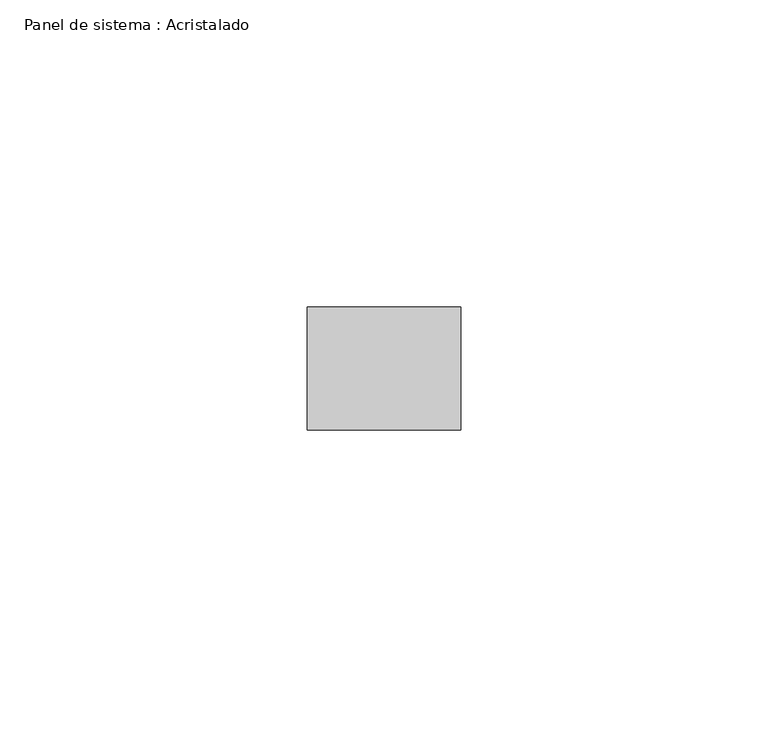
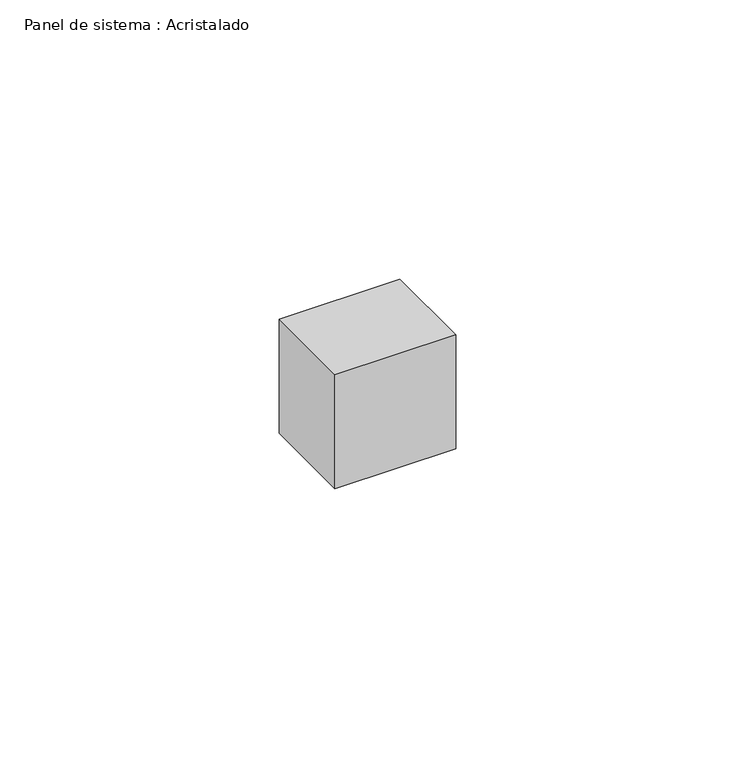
"""IFC4 building model written with IfcOpenShell, lengths in millimetres: plate geometry, Panel de sistema : Acristalado."""

from ifc_helpers import new_model, si_unit, origin, origin_with_axes, place, context, project, spatial, polyline, outline, extrude, source, transform, mapped, element, save


def panel_de_sistema_acristalado_621c0b26(model_context):
    return source(origin(), model_context, "Body", "SweptSolid", [
        extrude(outline(polyline([(12.5, -10.0), (-12.5, -10.0), (-12.5, 10.0), (12.5, 10.0), (12.5, -10.0)])), origin_with_axes(), (0.0, 0.0, 1.0), 25.0),
    ])


if __name__ == "__main__":
    model = new_model("IFC4")
    model_context = context("Model", 3, world=origin())
    ifc_project = project(units=[si_unit("LENGTHUNIT", "METRE", prefix="MILLI")], contexts=[model_context])
    site = spatial("IfcSite", under=ifc_project)
    building = spatial("IfcBuilding", under=site)
    placement = place(None, origin())
    panel_de_sistema_acristalado_shape = panel_de_sistema_acristalado_621c0b26(model_context)
    element("IfcPlate", 1, ObjectType="Panel de sistema : Acristalado", at=placement, inside=building, context=model_context, shape_type="MappedRepresentation", body=[
        mapped(panel_de_sistema_acristalado_shape, transform((0.0, 0.0, 0.0), x_axis=(1.0, 0.0, 0.0), y_axis=(0.0, 1.0, 0.0), z_axis=(0.0, 0.0, 1.0))),
    ])
    save(model, "model.ifc")
